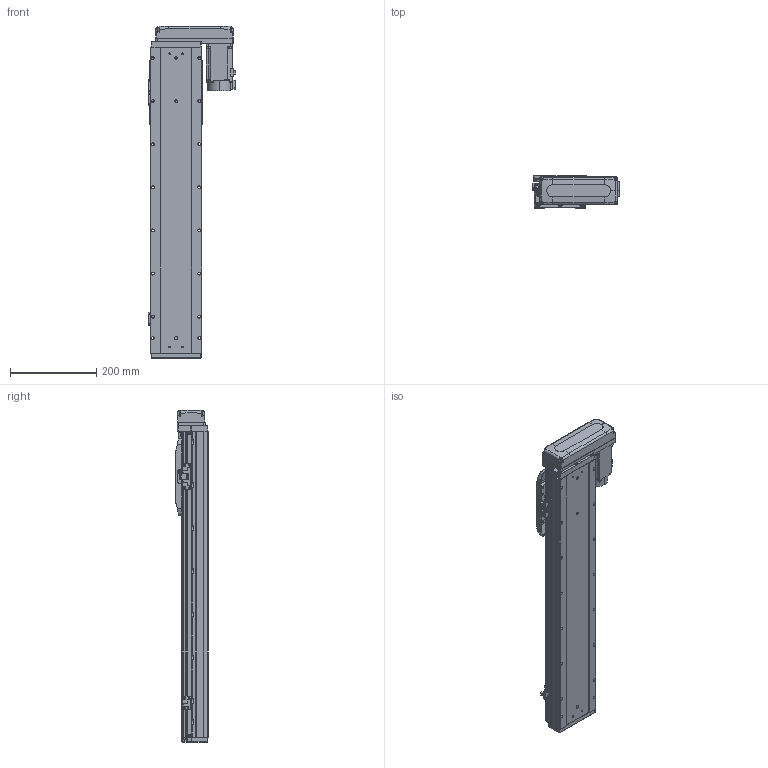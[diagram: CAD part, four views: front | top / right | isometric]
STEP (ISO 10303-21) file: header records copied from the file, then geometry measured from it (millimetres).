
FILE_DESCRIPTION (( 'STEP AP203' ), '1' );
FILE_NAME ('GTH12-500-BL-M40-C4.step', '2025-07-16T03:41:35', ( '' ), ( '' ), 'SwSTEP 2.0', 'SolidWorks 2023', '' );
FILE_SCHEMA (( 'CONFIG_CONTROL_DESIGN' ));
Length unit declared in the file: millimetre
Products named in the file (17): GTH120-027-1_GTH120-027-2; GTH12-500-BL-M40-C4; GTH80-028; 感应器总成右; hg-kn43j_-s100_; GBT 70.3-M3×8; GBT 70.1-M5×16; GTH120-001_500; BTH-M3X5X6; GTH80-022; 感应器总成左; GTH120-003; CTHA86-033_M40B; GTH120-013; GTH120-006; GBT 70.1-M3×6; GTH120-004
Assembly tree (38 placements, depth 2):
  GTH12-500-BL-M40-C4
    GTH120-001_500
    GTH120-003
    GTH120-006
    GTH120-004
    GTH120-013
    GBT 70.1-M3×6  x2
    GBT 70.1-M5×16  x10
    GBT 70.3-M3×8  x4
    GTH80-022
    GTH80-028  x2
    BTH-M3X5X6  x8
    hg-kn43j_-s100_
    CTHA86-033_M40B
    GTH120-027-1_GTH120-027-2
    感应器总成右  x2
    感应器总成左
Bounding box: 203.5 x 76 x 770.5 mm (x, y, z)
Volume: 5874909.7 mm3; surface area: 572873.7 mm2
Topology: 55 solids, 55 shells, 2382 faces, 5589 edges, 3443 vertices
Faces by surface type: plane 1220, cylinder 686, cone 300, torus 162, sphere 8, bspline 6
Entity records: 52067 total; most frequent: CARTESIAN_POINT 8912, DIRECTION 8808, ORIENTED_EDGE 8170, EDGE_CURVE 4085, AXIS2_PLACEMENT_3D 3072, LINE 2664, VECTOR 2664, VERTEX_POINT 2576
